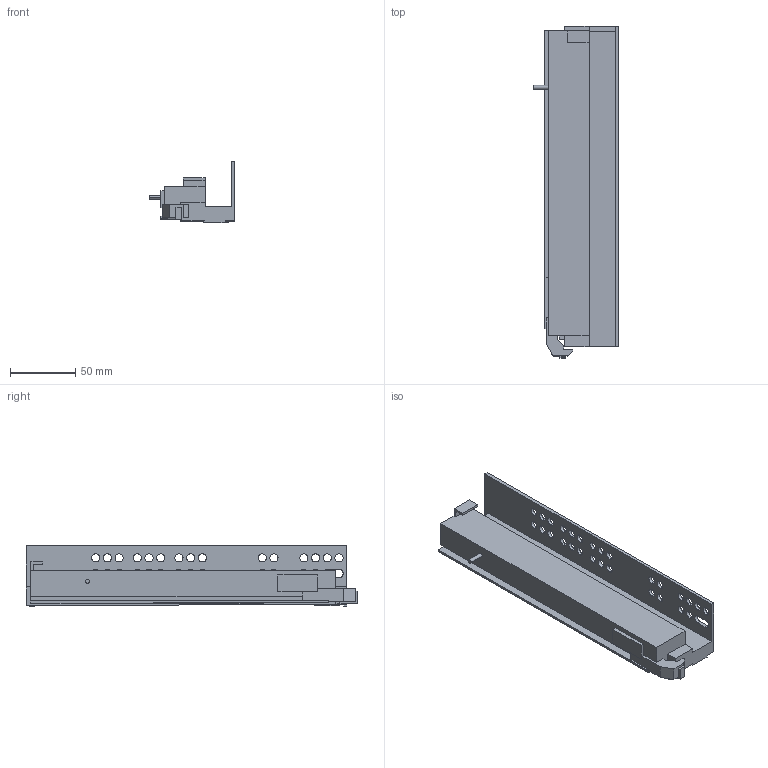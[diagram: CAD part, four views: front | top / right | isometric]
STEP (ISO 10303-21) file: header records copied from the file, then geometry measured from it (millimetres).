
FILE_DESCRIPTION (( 'STEP AP203' ), '1' );
FILE_NAME ('IMOS_Dynapro_Tipmatic_D51_NL_0_RE.STEP', '2013-03-22T12:20:17', ( 'Grass GmbH' ), ( 'Grass GmbH' ), 'SwSTEP 2.0', 'SolidWorks 2012', '' );
FILE_SCHEMA (( 'CONFIG_CONTROL_DESIGN' ));
Length unit declared in the file: millimetre
Products named in the file (1): IMOS_Dynapro_Tipmatic_D51_NL_0_RE
Bounding box: 65.92 x 255.09 x 47.46 mm (x, y, z)
Volume: 270689.4 mm3; surface area: 66106.8 mm2
Topology: 1 solids, 1 shells, 162 faces, 464 edges, 309 vertices
Faces by surface type: plane 97, cylinder 65
Entity records: 5503 total; most frequent: CARTESIAN_POINT 936, ORIENTED_EDGE 928, DIRECTION 920, EDGE_CURVE 464, LINE 334, VECTOR 334, VERTEX_POINT 309, AXIS2_PLACEMENT_3D 293
